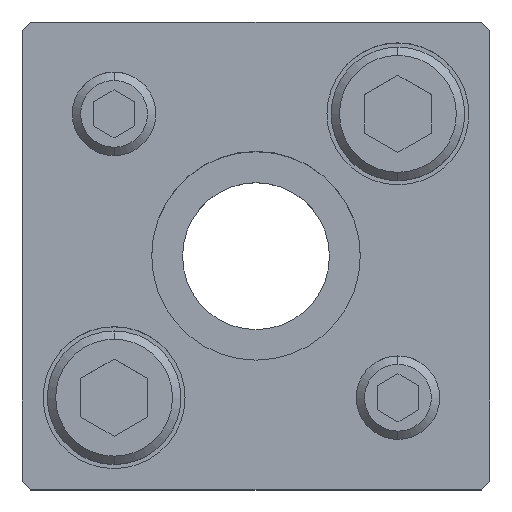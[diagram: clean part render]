
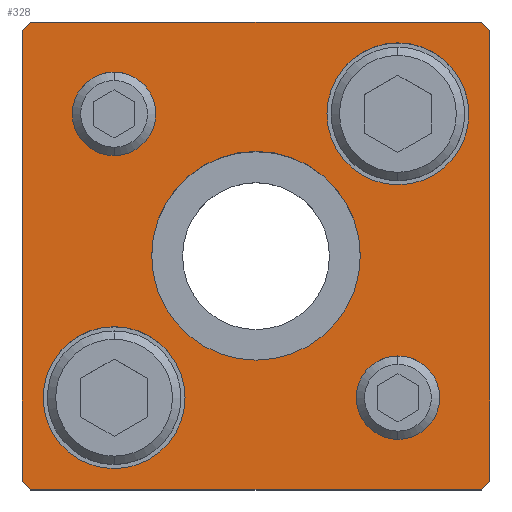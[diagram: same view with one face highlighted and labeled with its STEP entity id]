
A CAD part, top view. The second image highlights one B-rep face of the part: STEP entity #328.
In plain terms, the highlighted planar face has unit normal (0, 0, 1).
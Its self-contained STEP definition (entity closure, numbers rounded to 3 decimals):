
#119=PLANE('',#2702);
#192=FACE_BOUND('',#649,.T.);
#193=FACE_BOUND('',#650,.T.);
#194=FACE_BOUND('',#651,.T.);
#195=FACE_BOUND('',#652,.T.);
#196=FACE_BOUND('',#653,.T.);
#197=FACE_BOUND('',#654,.T.);
#328=ADVANCED_FACE('',(#192,#193,#194,#195,#196,#197),#119,.T.);
#649=EDGE_LOOP('',(#1071,#1072,#1073,#1074,#1075,#1076,#1077,#1078));
#650=EDGE_LOOP('',(#1079,#1080));
#651=EDGE_LOOP('',(#1081,#1082));
#652=EDGE_LOOP('',(#1083,#1084));
#653=EDGE_LOOP('',(#1085,#1086));
#654=EDGE_LOOP('',(#1087,#1088));
#833=CIRCLE('',#2678,5.);
#835=CIRCLE('',#2681,5.);
#837=CIRCLE('',#2684,5.);
#839=CIRCLE('',#2687,5.);
#845=CIRCLE('',#2696,8.5);
#846=CIRCLE('',#2697,8.5);
#847=CIRCLE('',#2698,8.5);
#848=CIRCLE('',#2699,8.5);
#849=CIRCLE('',#2700,12.5);
#850=CIRCLE('',#2701,12.5);
#1071=ORIENTED_EDGE('',*,*,#1923,.T.);
#1072=ORIENTED_EDGE('',*,*,#1924,.T.);
#1073=ORIENTED_EDGE('',*,*,#1925,.T.);
#1074=ORIENTED_EDGE('',*,*,#1926,.T.);
#1075=ORIENTED_EDGE('',*,*,#1927,.T.);
#1076=ORIENTED_EDGE('',*,*,#1928,.T.);
#1077=ORIENTED_EDGE('',*,*,#1929,.T.);
#1078=ORIENTED_EDGE('',*,*,#1930,.T.);
#1079=ORIENTED_EDGE('',*,*,#1931,.F.);
#1080=ORIENTED_EDGE('',*,*,#1932,.F.);
#1081=ORIENTED_EDGE('',*,*,#1933,.F.);
#1082=ORIENTED_EDGE('',*,*,#1934,.F.);
#1083=ORIENTED_EDGE('',*,*,#1915,.F.);
#1084=ORIENTED_EDGE('',*,*,#1911,.F.);
#1085=ORIENTED_EDGE('',*,*,#1909,.F.);
#1086=ORIENTED_EDGE('',*,*,#1905,.F.);
#1087=ORIENTED_EDGE('',*,*,#1935,.T.);
#1088=ORIENTED_EDGE('',*,*,#1936,.T.);
#1659=VERTEX_POINT('',#3859);
#1660=VERTEX_POINT('',#3860);
#1663=VERTEX_POINT('',#3871);
#1664=VERTEX_POINT('',#3872);
#1671=VERTEX_POINT('',#3895);
#1672=VERTEX_POINT('',#3896);
#1673=VERTEX_POINT('',#3898);
#1674=VERTEX_POINT('',#3900);
#1675=VERTEX_POINT('',#3902);
#1676=VERTEX_POINT('',#3904);
#1677=VERTEX_POINT('',#3906);
#1678=VERTEX_POINT('',#3908);
#1679=VERTEX_POINT('',#3911);
#1680=VERTEX_POINT('',#3912);
#1681=VERTEX_POINT('',#3915);
#1682=VERTEX_POINT('',#3916);
#1683=VERTEX_POINT('',#3919);
#1684=VERTEX_POINT('',#3920);
#1905=EDGE_CURVE('',#1659,#1660,#833,.T.);
#1909=EDGE_CURVE('',#1660,#1659,#835,.T.);
#1911=EDGE_CURVE('',#1663,#1664,#837,.T.);
#1915=EDGE_CURVE('',#1664,#1663,#839,.T.);
#1923=EDGE_CURVE('',#1671,#1672,#2217,.T.);
#1924=EDGE_CURVE('',#1672,#1673,#2218,.T.);
#1925=EDGE_CURVE('',#1673,#1674,#2219,.T.);
#1926=EDGE_CURVE('',#1674,#1675,#2220,.T.);
#1927=EDGE_CURVE('',#1675,#1676,#2221,.T.);
#1928=EDGE_CURVE('',#1676,#1677,#2222,.T.);
#1929=EDGE_CURVE('',#1677,#1678,#2223,.T.);
#1930=EDGE_CURVE('',#1678,#1671,#2224,.T.);
#1931=EDGE_CURVE('',#1679,#1680,#845,.T.);
#1932=EDGE_CURVE('',#1680,#1679,#846,.T.);
#1933=EDGE_CURVE('',#1681,#1682,#847,.T.);
#1934=EDGE_CURVE('',#1682,#1681,#848,.T.);
#1935=EDGE_CURVE('',#1683,#1684,#849,.T.);
#1936=EDGE_CURVE('',#1684,#1683,#850,.T.);
#2217=LINE('',#3894,#2429);
#2218=LINE('',#3897,#2430);
#2219=LINE('',#3899,#2431);
#2220=LINE('',#3901,#2432);
#2221=LINE('',#3903,#2433);
#2222=LINE('',#3905,#2434);
#2223=LINE('',#3907,#2435);
#2224=LINE('',#3909,#2436);
#2429=VECTOR('',#3097,1.);
#2430=VECTOR('',#3098,1.);
#2431=VECTOR('',#3099,1.);
#2432=VECTOR('',#3100,1.);
#2433=VECTOR('',#3101,1.);
#2434=VECTOR('',#3102,1.);
#2435=VECTOR('',#3103,1.);
#2436=VECTOR('',#3104,1.);
#2678=AXIS2_PLACEMENT_3D('',#3858,#3055,#3056);
#2681=AXIS2_PLACEMENT_3D('',#3867,#3063,#3064);
#2684=AXIS2_PLACEMENT_3D('',#3870,#3069,#3070);
#2687=AXIS2_PLACEMENT_3D('',#3879,#3077,#3078);
#2696=AXIS2_PLACEMENT_3D('',#3910,#3105,#3106);
#2697=AXIS2_PLACEMENT_3D('',#3913,#3107,#3108);
#2698=AXIS2_PLACEMENT_3D('',#3914,#3109,#3110);
#2699=AXIS2_PLACEMENT_3D('',#3917,#3111,#3112);
#2700=AXIS2_PLACEMENT_3D('',#3918,#3113,#3114);
#2701=AXIS2_PLACEMENT_3D('',#3921,#3115,#3116);
#2702=AXIS2_PLACEMENT_3D('',#3922,#3117,#3118);
#3055=DIRECTION('',(0.,0.,1.));
#3056=DIRECTION('',(1.,0.,0.));
#3063=DIRECTION('',(0.,0.,1.));
#3064=DIRECTION('',(-1.,0.,0.));
#3069=DIRECTION('',(0.,0.,1.));
#3070=DIRECTION('',(1.,0.,0.));
#3077=DIRECTION('',(0.,0.,1.));
#3078=DIRECTION('',(-1.,0.,0.));
#3097=DIRECTION('',(1.,0.,0.));
#3098=DIRECTION('',(0.707,0.707,0.));
#3099=DIRECTION('',(0.,1.,0.));
#3100=DIRECTION('',(-0.707,0.707,0.));
#3101=DIRECTION('',(-1.,0.,0.));
#3102=DIRECTION('',(-0.707,-0.707,0.));
#3103=DIRECTION('',(0.,-1.,0.));
#3104=DIRECTION('',(0.707,-0.707,0.));
#3105=DIRECTION('',(0.,0.,1.));
#3106=DIRECTION('',(1.,0.,0.));
#3107=DIRECTION('',(0.,0.,1.));
#3108=DIRECTION('',(-1.,0.,0.));
#3109=DIRECTION('',(0.,0.,1.));
#3110=DIRECTION('',(1.,0.,0.));
#3111=DIRECTION('',(0.,0.,1.));
#3112=DIRECTION('',(-1.,0.,0.));
#3113=DIRECTION('',(0.,0.,-1.));
#3114=DIRECTION('',(-1.,0.,0.));
#3115=DIRECTION('',(0.,0.,-1.));
#3116=DIRECTION('',(1.,0.,0.));
#3117=DIRECTION('',(0.,0.,1.));
#3118=DIRECTION('',(-1.,0.,0.));
#3858=CARTESIAN_POINT('',(17.,-17.,35.));
#3859=CARTESIAN_POINT('',(17.,-12.,35.));
#3860=CARTESIAN_POINT('',(17.,-22.,35.));
#3867=CARTESIAN_POINT('',(17.,-17.,35.));
#3870=CARTESIAN_POINT('',(-17.,17.,35.));
#3871=CARTESIAN_POINT('',(-17.,22.,35.));
#3872=CARTESIAN_POINT('',(-17.,12.,35.));
#3879=CARTESIAN_POINT('',(-17.,17.,35.));
#3894=CARTESIAN_POINT('',(27.,-28.,35.));
#3895=CARTESIAN_POINT('',(-27.,-28.,35.));
#3896=CARTESIAN_POINT('',(27.,-28.,35.));
#3897=CARTESIAN_POINT('',(28.,-27.,35.));
#3898=CARTESIAN_POINT('',(28.,-27.,35.));
#3899=CARTESIAN_POINT('',(28.,27.,35.));
#3900=CARTESIAN_POINT('',(28.,27.,35.));
#3901=CARTESIAN_POINT('',(27.,28.,35.));
#3902=CARTESIAN_POINT('',(27.,28.,35.));
#3903=CARTESIAN_POINT('',(-27.,28.,35.));
#3904=CARTESIAN_POINT('',(-27.,28.,35.));
#3905=CARTESIAN_POINT('',(-28.,27.,35.));
#3906=CARTESIAN_POINT('',(-28.,27.,35.));
#3907=CARTESIAN_POINT('',(-28.,-27.,35.));
#3908=CARTESIAN_POINT('',(-28.,-27.,35.));
#3909=CARTESIAN_POINT('',(-27.,-28.,35.));
#3910=CARTESIAN_POINT('',(-17.,-17.,35.));
#3911=CARTESIAN_POINT('',(-17.,-8.5,35.));
#3912=CARTESIAN_POINT('',(-17.,-25.5,35.));
#3913=CARTESIAN_POINT('',(-17.,-17.,35.));
#3914=CARTESIAN_POINT('',(17.,17.,35.));
#3915=CARTESIAN_POINT('',(17.,25.5,35.));
#3916=CARTESIAN_POINT('',(17.,8.5,35.));
#3917=CARTESIAN_POINT('',(17.,17.,35.));
#3918=CARTESIAN_POINT('',(0.,0.,35.));
#3919=CARTESIAN_POINT('',(0.,12.5,35.));
#3920=CARTESIAN_POINT('',(0.,-12.5,35.));
#3921=CARTESIAN_POINT('',(0.,0.,35.));
#3922=CARTESIAN_POINT('',(-27.,-28.,35.));
